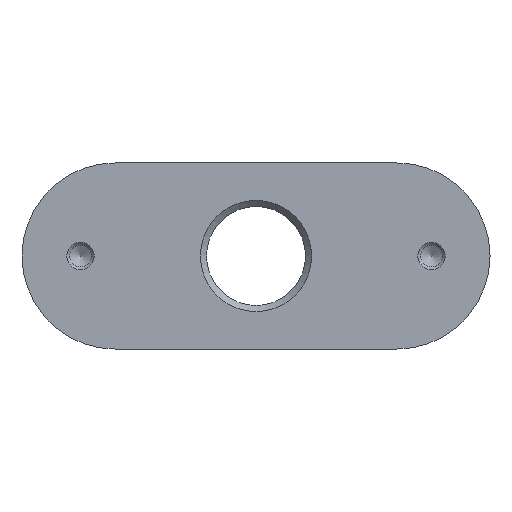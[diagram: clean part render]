
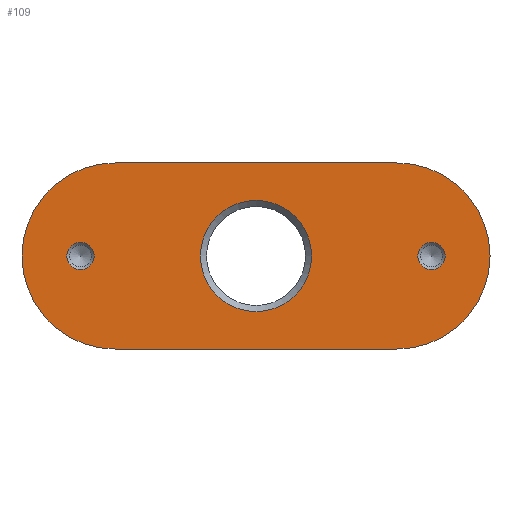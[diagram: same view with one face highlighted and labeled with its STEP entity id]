
A CAD part, front view. The second image highlights one B-rep face of the part: STEP entity #109.
In plain terms, the highlighted planar face has unit normal (0, -1, 0).
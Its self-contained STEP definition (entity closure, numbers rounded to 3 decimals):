
#109 = ADVANCED_FACE( '', ( #231, #232, #233, #234 ), #235, .F. );
#231 = FACE_BOUND( '', #655, .T. );
#232 = FACE_BOUND( '', #656, .T. );
#233 = FACE_BOUND( '', #657, .T. );
#234 = FACE_OUTER_BOUND( '', #658, .T. );
#235 = PLANE( '', #659 );
#655 = EDGE_LOOP( '', ( #887 ) );
#656 = EDGE_LOOP( '', ( #888 ) );
#657 = EDGE_LOOP( '', ( #889 ) );
#658 = EDGE_LOOP( '', ( #890, #891, #892, #893 ) );
#659 = AXIS2_PLACEMENT_3D( '', #894, #895, #896 );
#887 = ORIENTED_EDGE( '', *, *, #1060, .T. );
#888 = ORIENTED_EDGE( '', *, *, #1085, .T. );
#889 = ORIENTED_EDGE( '', *, *, #1065, .T. );
#890 = ORIENTED_EDGE( '', *, *, #1007, .F. );
#891 = ORIENTED_EDGE( '', *, *, #1048, .F. );
#892 = ORIENTED_EDGE( '', *, *, #1086, .F. );
#893 = ORIENTED_EDGE( '', *, *, #1079, .F. );
#894 = CARTESIAN_POINT( '', ( -26.5, -8., 0. ) );
#895 = DIRECTION( '', ( 0., 1., 0. ) );
#896 = DIRECTION( '', ( 0., 0., 1. ) );
#1007 = EDGE_CURVE( '', #1127, #1122, #1129, .T. );
#1048 = EDGE_CURVE( '', #1191, #1127, #1193, .T. );
#1060 = EDGE_CURVE( '', #1211, #1211, #1212, .T. );
#1065 = EDGE_CURVE( '', #1219, #1219, #1220, .T. );
#1079 = EDGE_CURVE( '', #1122, #1236, #1237, .T. );
#1085 = EDGE_CURVE( '', #1244, #1244, #1245, .T. );
#1086 = EDGE_CURVE( '', #1236, #1191, #1246, .T. );
#1122 = VERTEX_POINT( '', #1285 );
#1127 = VERTEX_POINT( '', #1291 );
#1129 = CIRCLE( '', #1294, 17.5 );
#1191 = VERTEX_POINT( '', #1585 );
#1193 = LINE( '', #1588, #1589 );
#1211 = VERTEX_POINT( '', #1611 );
#1212 = CIRCLE( '', #1612, 2.567 );
#1219 = VERTEX_POINT( '', #1619 );
#1220 = CIRCLE( '', #1620, 10.466 );
#1236 = VERTEX_POINT( '', #1640 );
#1237 = LINE( '', #1641, #1642 );
#1244 = VERTEX_POINT( '', #1650 );
#1245 = CIRCLE( '', #1651, 2.567 );
#1246 = CIRCLE( '', #1652, 17.5 );
#1285 = CARTESIAN_POINT( '', ( -26.5, -8., 17.5 ) );
#1291 = CARTESIAN_POINT( '', ( -26.5, -8., -17.5 ) );
#1294 = AXIS2_PLACEMENT_3D( '', #1690, #1691, #1692 );
#1585 = CARTESIAN_POINT( '', ( 26.5, -8., -17.5 ) );
#1588 = CARTESIAN_POINT( '', ( -26.5, -8., -17.5 ) );
#1589 = VECTOR( '', #1750, 1000. );
#1611 = CARTESIAN_POINT( '', ( 33., -8., 2.567 ) );
#1612 = AXIS2_PLACEMENT_3D( '', #1767, #1768, #1769 );
#1619 = CARTESIAN_POINT( '', ( 0., -8., 10.466 ) );
#1620 = AXIS2_PLACEMENT_3D( '', #1776, #1777, #1778 );
#1640 = CARTESIAN_POINT( '', ( 26.5, -8., 17.5 ) );
#1641 = CARTESIAN_POINT( '', ( -26.5, -8., 17.5 ) );
#1642 = VECTOR( '', #1792, 1000. );
#1650 = CARTESIAN_POINT( '', ( -33., -8., 2.567 ) );
#1651 = AXIS2_PLACEMENT_3D( '', #1800, #1801, #1802 );
#1652 = AXIS2_PLACEMENT_3D( '', #1803, #1804, #1805 );
#1690 = CARTESIAN_POINT( '', ( -26.5, -8., 0. ) );
#1691 = DIRECTION( '', ( 0., 1., 0. ) );
#1692 = DIRECTION( '', ( 1., 0., 0. ) );
#1750 = DIRECTION( '', ( -1., 0., 0. ) );
#1767 = CARTESIAN_POINT( '', ( 33., -8., 0. ) );
#1768 = DIRECTION( '', ( 0., 1., 0. ) );
#1769 = DIRECTION( '', ( 0., 0., 1. ) );
#1776 = CARTESIAN_POINT( '', ( 0., -8., 0. ) );
#1777 = DIRECTION( '', ( 0., 1., 0. ) );
#1778 = DIRECTION( '', ( 0., 0., 1. ) );
#1792 = DIRECTION( '', ( 1., 0., 0. ) );
#1800 = CARTESIAN_POINT( '', ( -33., -8., 0. ) );
#1801 = DIRECTION( '', ( 0., 1., 0. ) );
#1802 = DIRECTION( '', ( 0., 0., 1. ) );
#1803 = CARTESIAN_POINT( '', ( 26.5, -8., 0. ) );
#1804 = DIRECTION( '', ( 0., 1., 0. ) );
#1805 = DIRECTION( '', ( -1., 0., 0. ) );
